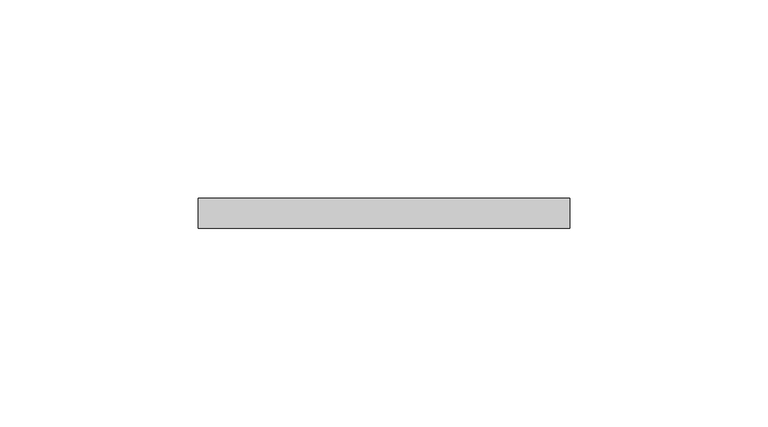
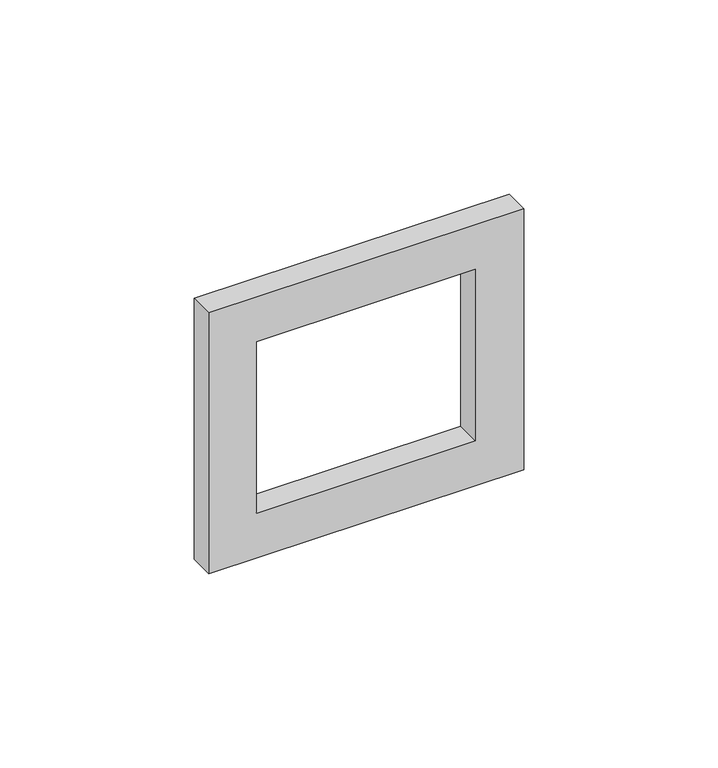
"""IFC4 building model written with IfcOpenShell, lengths in millimetres: proxy geometry, Iris_Plus_AluminioMercurio : Marco 1 elemento."""

from ifc_helpers import new_model, si_unit, frame, origin, place, context, project, spatial, polyline, outline, extrude, source, transform, mapped, element, save


def electrical_fixtures_0a816f9b(model_context):
    return source(origin(), model_context, "Body", "SweptSolid", [
        extrude(outline(polyline([(1041.0, 78.2), (959.0, 78.2), (959.0, 171.8), (1041.0, 171.8), (1041.0, 78.2)]), holes=[polyline([(1027.0, 157.5), (973.0, 157.5), (973.0, 92.5), (1027.0, 92.5), (1027.0, 157.5)])]), frame((0.0, 100.0, 0.0), z_axis=(0.0, 1.0, 0.0), x_axis=(0.0, 0.0, 1.0)), (0.0, 0.0, 1.0), 7.5),
    ])


if __name__ == "__main__":
    model = new_model("IFC4")
    model_context = context("Model", 3, world=origin())
    ifc_project = project(units=[si_unit("LENGTHUNIT", "METRE", prefix="MILLI")], contexts=[model_context])
    site = spatial("IfcSite", under=ifc_project)
    building = spatial("IfcBuilding", under=site)
    placement = place(None, origin())
    electrical_fixtures_shape = electrical_fixtures_0a816f9b(model_context)
    element("IfcBuildingElementProxy", 1, Name="Iris_Plus_AluminioMercurio : Marco 1 elemento", ObjectType="Iris_Plus_AluminioMercurio : Marco 1 elemento", at=placement, inside=building, context=model_context, shape_type="MappedRepresentation", body=[
        mapped(electrical_fixtures_shape, transform((0.0, 0.0, 0.0), x_axis=(1.0, 0.0, 0.0), y_axis=(0.0, 1.0, 0.0), z_axis=(0.0, 0.0, 1.0))),
    ])
    save(model, "model.ifc")
